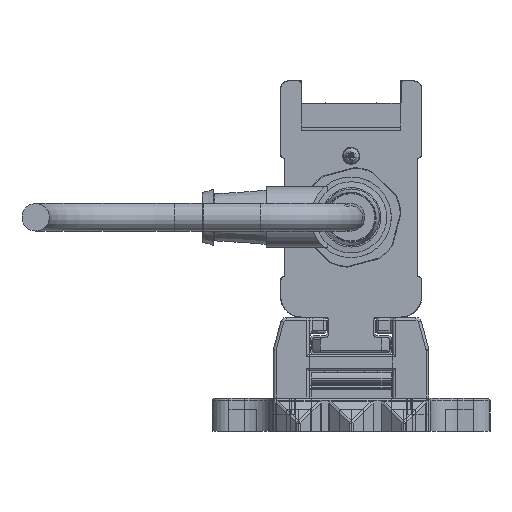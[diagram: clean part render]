
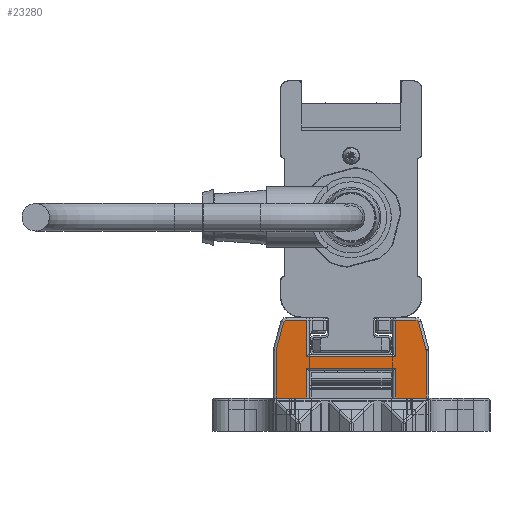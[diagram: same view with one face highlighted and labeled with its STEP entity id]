
A CAD part, left-side view. The second image highlights one B-rep face of the part: STEP entity #23280.
In plain terms, the highlighted planar face has unit normal (-1, 0, 0).
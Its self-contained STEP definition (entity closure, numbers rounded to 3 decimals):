
#23280=ADVANCED_FACE('', (#23290), #23300, .T.);
#141290=AXIS2_PLACEMENT_3D('Ax2Pl3d', #141300, #141310, #141320);
#141530=AXIS2_PLACEMENT_3D('Ax2Pl3d', #141540, #141550, #141560);
#146410=AXIS2_PLACEMENT_3D('Ax2Pl3d', #146420, #146430, #146440);
#151490=AXIS2_PLACEMENT_3D('Ax2Pl3d', #151500, #151510, #151520);
#161170=AXIS2_PLACEMENT_3D('Ax2Pl3d', #161180, #161190, #161200);
#583560=CARTESIAN_POINT('', (-747.669,-2966.345,
331.37));
#141300=CARTESIAN_POINT('HicPkt', (-747.669,-2965.379,
331.111));
#583570=CARTESIAN_POINT('', (-747.669,-2966.379,
331.111));
#583580=CARTESIAN_POINT('', (-747.669,-2965.037,
336.255));
#583600=CARTESIAN_POINT('', (-747.669,-2965.037,
336.255));
#583630=CARTESIAN_POINT('', (-747.669,-2964.554,336.625)
);
#141540=CARTESIAN_POINT('HicPkt', (-747.669,-2964.554,
336.125));
#583850=CARTESIAN_POINT('', (-747.669,-2966.379,
322.625));
#583860=CARTESIAN_POINT('', (-747.669,-2960.881,
322.625));
#583870=CARTESIAN_POINT('', (-747.669,-2960.881,
322.625));
#583950=CARTESIAN_POINT('', (-747.669,-2944.881,
322.625));
#583960=CARTESIAN_POINT('', (-747.669,-2939.383,
322.625));
#583970=CARTESIAN_POINT('', (-747.669,-2939.383,
322.625));
#146420=CARTESIAN_POINT('HicPkt', (-747.669,-2941.209,
336.125));
#586440=CARTESIAN_POINT('', (-747.669,-2940.726,
336.255));
#586450=CARTESIAN_POINT('', (-747.669,-2941.209,
336.625));
#586460=CARTESIAN_POINT('', (-747.669,-2960.881,
330.025));
#586470=CARTESIAN_POINT('', (-747.669,-2944.881,
330.025));
#586480=CARTESIAN_POINT('', (-747.669,-2960.881,
330.025));
#586640=CARTESIAN_POINT('', (-747.669,-2960.881,
328.005));
#586650=CARTESIAN_POINT('', (-747.669,-2944.881,
328.005));
#586660=CARTESIAN_POINT('', (-747.669,-2944.881,
328.005));
#586670=CARTESIAN_POINT('', (-747.669,-2960.881,
328.005));
#586690=CARTESIAN_POINT('', (-747.669,-2944.881,
322.625));
#586700=CARTESIAN_POINT('', (-747.669,-2944.881,
330.025));
#586710=CARTESIAN_POINT('', (-747.669,-2944.881,
336.625));
#587560=CARTESIAN_POINT('', (-747.669,-2944.881,
336.625));
#587570=CARTESIAN_POINT('', (-747.669,-2940.726,336.255)
);
#587580=CARTESIAN_POINT('', (-747.669,-2939.417,
331.37));
#587770=CARTESIAN_POINT('', (-747.669,-2939.383,
331.111));
#587780=CARTESIAN_POINT('', (-747.669,-2939.383,
331.111));
#151500=CARTESIAN_POINT('HicPkt', (-747.669,-2940.383,
331.111));
#588590=CARTESIAN_POINT('', (-747.669,-2966.379,
331.111));
#161180=CARTESIAN_POINT('HicPkt', (-747.669,-2964.554,
336.625));
#590390=CARTESIAN_POINT('', (-747.669,-2960.881,
336.625));
#590400=CARTESIAN_POINT('', (-747.669,-2960.881,
336.625));
#590410=CARTESIAN_POINT('', (-747.669,-2960.881,
336.625));
#675070=CIRCLE('Circle', #141290, 1.);
#675110=CIRCLE('Circle', #141530, 0.5);
#675690=CIRCLE('Circle', #146410, 0.5);
#676220=CIRCLE('Circle', #151490, 1.);
#141310=DIRECTION('Axis', (-1.,0.,
0.));
#141320=DIRECTION('RefDirection', (0.,
0.,-1.));
#942570=DIRECTION('', (0.,0.259,
0.966));
#141550=DIRECTION('Axis', (-1.,0.,
0.));
#141560=DIRECTION('RefDirection', (0.,
0.,-1.));
#942680=DIRECTION('', (0.,1.,0.));
#942720=DIRECTION('', (0.,1.,0.));
#146430=DIRECTION('Axis', (1.,0.,
0.));
#146440=DIRECTION('RefDirection', (0.,
0.,-1.));
#943910=DIRECTION('', (0.,-1.,0.));
#944010=DIRECTION('', (0.,1.,0.));
#944020=DIRECTION('', (0.,0.,1.));
#944040=DIRECTION('', (0.,0.,-1.));
#944050=DIRECTION('', (0.,0.,-1.));
#944480=DIRECTION('', (0.,-1.,0.));
#944490=DIRECTION('', (0.,-0.259,0.966));
#944580=DIRECTION('', (0.,0.,1.));
#151510=DIRECTION('Axis', (1.,0.,
0.));
#151520=DIRECTION('RefDirection', (0.,
0.,-1.));
#944950=DIRECTION('', (0.,0.,1.));
#161190=DIRECTION('Axis', (-1.,0.,
0.));
#161200=DIRECTION('RefDirection', (0.,
0.,-1.));
#945790=DIRECTION('', (0.,1.,0.));
#945800=DIRECTION('', (0.,0.,1.));
#1009400=EDGE_CURVE('', #1009410, #1009390, #675070, .T.);
#1009460=EDGE_CURVE('', #1009390, #1009440, #1009470, .T.);
#1009530=EDGE_CURVE('', #1009440, #1009520, #675110, .T.);
#1009980=EDGE_CURVE('', #1009970, #1009990, #1010000, .T.);
#1010140=EDGE_CURVE('', #1010130, #1010150, #1010160, .T.);
#1014500=EDGE_CURVE('', #1014510, #1014520, #675690, .T.);
#1014550=EDGE_CURVE('', #1014560, #1014570, #1014580, .T.);
#1014920=EDGE_CURVE('', #1014900, #1014930, #1014940, .T.);
#1014970=EDGE_CURVE('', #1009990, #1014900, #1014980, .T.);
#1015010=EDGE_CURVE('', #1014930, #1010130, #1015020, .T.);
#1015030=EDGE_CURVE('', #1015040, #1014560, #1015050, .T.);
#1016870=EDGE_CURVE('', #1014520, #1015040, #1016880, .T.);
#1016940=EDGE_CURVE('', #1016950, #1014510, #1016960, .T.);
#1017380=EDGE_CURVE('', #1010150, #1017390, #1017400, .T.);
#1017420=EDGE_CURVE('', #1017390, #1016950, #676220, .T.);
#1019130=EDGE_CURVE('', #1009970, #1009410, #1019140, .T.);
#1022940=EDGE_CURVE('', #1009520, #1022950, #1022960, .T.);
#1022970=EDGE_CURVE('', #1014570, #1022950, #1022980, .T.);
#1216860=EDGE_LOOP('Edge_loop', (#1216870,#1216880,#1216890,#1216900,
#1216910,#1216920,#1216930,#1216940,#1216950,#1216960,#1216970,
#1216980,#1216990,#1217000,#1217010,#1217020,#1217030,#1217040));
#23290=FACE_OUTER_BOUND('Face_outer_bound', #1216860, .T.);
#1009470=LINE('Line', #583600, #1391440);
#1010000=LINE('Line', #583860, #1391550);
#1010160=LINE('Line', #583960, #1391590);
#1014580=LINE('Line', #586460, #1392780);
#1014940=LINE('Line', #586650, #1392880);
#1014980=LINE('Line', #586670, #1392890);
#1015020=LINE('Line', #586690, #1392910);
#1015050=LINE('Line', #586700, #1392920);
#1016880=LINE('Line', #587560, #1393350);
#1016960=LINE('Line', #587570, #1393360);
#1017400=LINE('Line', #587770, #1393450);
#1019140=LINE('Line', #588590, #1393820);
#1022960=LINE('Line', #590390, #1394660);
#1022980=LINE('Line', #590410, #1394670);
#1216870=ORIENTED_EDGE('', *, *, #1022940, .T.);
#1216880=ORIENTED_EDGE('', *, *, #1022970, .F.);
#1216890=ORIENTED_EDGE('', *, *, #1014550, .F.);
#1216900=ORIENTED_EDGE('', *, *, #1015030, .F.);
#1216910=ORIENTED_EDGE('', *, *, #1016870, .F.);
#1216920=ORIENTED_EDGE('', *, *, #1014500, .F.);
#1216930=ORIENTED_EDGE('', *, *, #1016940, .F.);
#1216940=ORIENTED_EDGE('', *, *, #1017420, .F.);
#1216950=ORIENTED_EDGE('', *, *, #1017380, .F.);
#1216960=ORIENTED_EDGE('', *, *, #1010140, .F.);
#1216970=ORIENTED_EDGE('', *, *, #1015010, .F.);
#1216980=ORIENTED_EDGE('', *, *, #1014920, .F.);
#1216990=ORIENTED_EDGE('', *, *, #1014970, .F.);
#1217000=ORIENTED_EDGE('', *, *, #1009980, .F.);
#1217010=ORIENTED_EDGE('', *, *, #1019130, .T.);
#1217020=ORIENTED_EDGE('', *, *, #1009400, .T.);
#1217030=ORIENTED_EDGE('', *, *, #1009460, .T.);
#1217040=ORIENTED_EDGE('', *, *, #1009530, .T.);
#23300=PLANE('Plane', #161170);
#1391440=VECTOR('', #942570, 5.057);
#1391550=VECTOR('', #942680, 5.498);
#1391590=VECTOR('', #942720, 5.498);
#1392780=VECTOR('', #943910, 16.);
#1392880=VECTOR('', #944010, 16.);
#1392890=VECTOR('', #944020, 5.38);
#1392910=VECTOR('', #944040, 5.38);
#1392920=VECTOR('', #944050, 6.6);
#1393350=VECTOR('', #944480, 3.672);
#1393360=VECTOR('', #944490, 5.057);
#1393450=VECTOR('', #944580, 8.486);
#1393820=VECTOR('', #944950, 8.486);
#1394660=VECTOR('', #945790, 3.672);
#1394670=VECTOR('', #945800, 6.6);
#1009390=VERTEX_POINT('', #583560);
#1009410=VERTEX_POINT('', #583570);
#1009440=VERTEX_POINT('', #583580);
#1009520=VERTEX_POINT('', #583630);
#1009970=VERTEX_POINT('', #583850);
#1009990=VERTEX_POINT('', #583870);
#1010130=VERTEX_POINT('', #583950);
#1010150=VERTEX_POINT('', #583970);
#1014510=VERTEX_POINT('', #586440);
#1014520=VERTEX_POINT('', #586450);
#1014560=VERTEX_POINT('', #586470);
#1014570=VERTEX_POINT('', #586480);
#1014900=VERTEX_POINT('', #586640);
#1014930=VERTEX_POINT('', #586660);
#1015040=VERTEX_POINT('', #586710);
#1016950=VERTEX_POINT('', #587580);
#1017390=VERTEX_POINT('', #587780);
#1022950=VERTEX_POINT('', #590400);
